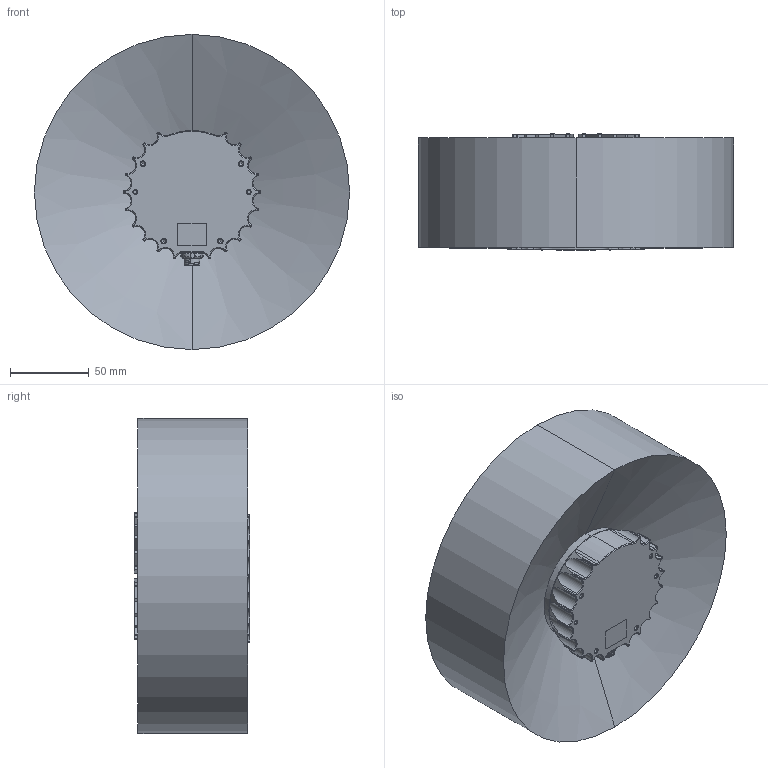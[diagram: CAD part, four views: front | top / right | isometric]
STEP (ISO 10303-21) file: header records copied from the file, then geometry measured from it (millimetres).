
FILE_DESCRIPTION (( 'STEP AP214' ), '1' );
FILE_NAME ('840-102145-D-SensorAssemblyOS1_FOV.STEP', '2020-12-14T19:10:26', ( '' ), ( '' ), 'SwSTEP 2.0', 'SolidWorks 2020', '' );
FILE_SCHEMA (( 'AUTOMOTIVE_DESIGN' ));
Length unit declared in the file: millimetre
Products named in the file (3): 840-102145-D-SensorAssemblyOS1_FOV; sensor_fov_20201016; defeature_840-102145-D-SensorAssemblyOS1
Assembly tree (2 placements, depth 2):
  840-102145-D-SensorAssemblyOS1_FOV
    defeature_840-102145-D-SensorAssemblyOS1
    sensor_fov_20201016
Bounding box: 200 x 73.5 x 200 mm (x, y, z)
Volume: 1588946.1 mm3; surface area: 148970.6 mm2
Topology: 2 solids, 2 shells, 1303 faces, 3315 edges, 2058 vertices
Faces by surface type: cone 432, cylinder 419, plane 378, bspline 64, torus 8, sphere 2
Entity records: 57662 total; most frequent: CARTESIAN_POINT 19512, ORIENTED_EDGE 6518, DIRECTION 6349, EDGE_CURVE 3259, AXIS2_PLACEMENT_3D 2468, VERTEX_POINT 2058, VECTOR 1413, LINE 1413
